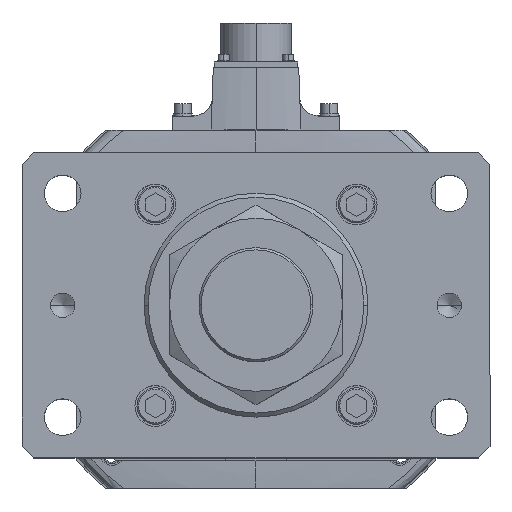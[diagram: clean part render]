
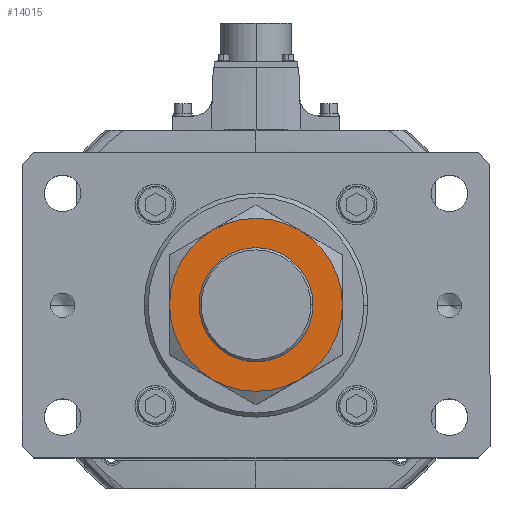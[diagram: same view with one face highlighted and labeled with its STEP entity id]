
A CAD part, top view. The second image highlights one B-rep face of the part: STEP entity #14015.
In plain terms, the highlighted planar face has unit normal (0, 0, 1).
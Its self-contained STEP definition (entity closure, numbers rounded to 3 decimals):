
#286 = CARTESIAN_POINT ( 'NONE',  ( 0., 0., 34. ) ) ;
#1874 = DIRECTION ( 'NONE',  ( 0., 0., -1. ) ) ;
#3239 = DIRECTION ( 'NONE',  ( 0., 0., -1. ) ) ;
#4269 = EDGE_CURVE ( 'NONE', #36777, #18673, #53697, .T. ) ;
#4595 = CARTESIAN_POINT ( 'NONE',  ( 0., 0., 34. ) ) ;
#4734 = AXIS2_PLACEMENT_3D ( 'NONE', #43669, #18228, #47964 ) ;
#5102 = CARTESIAN_POINT ( 'NONE',  ( -21.25, 36.806, 34. ) ) ;
#5955 = EDGE_CURVE ( 'NONE', #35316, #36777, #53524, .T. ) ;
#6283 = ORIENTED_EDGE ( 'NONE', *, *, #39008, .F. ) ;
#6478 = DIRECTION ( 'NONE',  ( 0., 0., -1. ) ) ;
#6659 = AXIS2_PLACEMENT_3D ( 'NONE', #40404, #44841, #14950 ) ;
#10468 = DIRECTION ( 'NONE',  ( 0., 0., 1. ) ) ;
#10799 = ORIENTED_EDGE ( 'NONE', *, *, #29269, .F. ) ;
#11322 = FACE_BOUND ( 'NONE', #28404, .T. ) ;
#11945 = CIRCLE ( 'NONE', #46133, 42.5 ) ;
#12364 = AXIS2_PLACEMENT_3D ( 'NONE', #21225, #33654, #12823 ) ;
#12823 = DIRECTION ( 'NONE',  ( 1., 0., 0. ) ) ;
#14015 = ADVANCED_FACE ( 'NONE', ( #15343, #11322 ), #23356, .T. ) ;
#14950 = DIRECTION ( 'NONE',  ( 1., 0., 0. ) ) ;
#15343 = FACE_OUTER_BOUND ( 'NONE', #28441, .T. ) ;
#16527 = VERTEX_POINT ( 'NONE', #43748 ) ;
#17111 = ORIENTED_EDGE ( 'NONE', *, *, #22601, .F. ) ;
#17569 = AXIS2_PLACEMENT_3D ( 'NONE', #286, #47498, #34702 ) ;
#17618 = ORIENTED_EDGE ( 'NONE', *, *, #30179, .F. ) ;
#17797 = CIRCLE ( 'NONE', #31853, 42.5 ) ;
#18228 = DIRECTION ( 'NONE',  ( 0., 0., -1. ) ) ;
#18453 = ORIENTED_EDGE ( 'NONE', *, *, #22213, .F. ) ;
#18673 = VERTEX_POINT ( 'NONE', #19783 ) ;
#19147 = VERTEX_POINT ( 'NONE', #32884 ) ;
#19783 = CARTESIAN_POINT ( 'NONE',  ( 42.5, 0., 34. ) ) ;
#20454 = CARTESIAN_POINT ( 'NONE',  ( 21.25, 36.806, 34. ) ) ;
#21225 = CARTESIAN_POINT ( 'NONE',  ( 0., 0., 34. ) ) ;
#21782 = DIRECTION ( 'NONE',  ( 0., 0., -1. ) ) ;
#22171 = CIRCLE ( 'NONE', #43615, 42.5 ) ;
#22213 = EDGE_CURVE ( 'NONE', #50959, #35316, #11945, .T. ) ;
#22601 = EDGE_CURVE ( 'NONE', #30870, #19147, #43844, .T. ) ;
#23356 = PLANE ( 'NONE',  #6659 ) ;
#23691 = CARTESIAN_POINT ( 'NONE',  ( 0., 0., 34. ) ) ;
#25032 = DIRECTION ( 'NONE',  ( -1., 0., 0. ) ) ;
#25495 = CARTESIAN_POINT ( 'NONE',  ( 21.25, -36.806, 34. ) ) ;
#26763 = VERTEX_POINT ( 'NONE', #25495 ) ;
#28132 = CARTESIAN_POINT ( 'NONE',  ( -42.5, 0., 34. ) ) ;
#28404 = EDGE_LOOP ( 'NONE', ( #42587, #17111 ) ) ;
#28407 = DIRECTION ( 'NONE',  ( 1., 0., 0. ) ) ;
#28441 = EDGE_LOOP ( 'NONE', ( #10799, #42631, #33770, #18453, #6283, #17618 ) ) ;
#29112 = CARTESIAN_POINT ( 'NONE',  ( 0., 0., 34. ) ) ;
#29269 = EDGE_CURVE ( 'NONE', #18673, #26763, #17797, .T. ) ;
#30179 = EDGE_CURVE ( 'NONE', #26763, #16527, #47727, .T. ) ;
#30280 = DIRECTION ( 'NONE',  ( 1., 0., 0. ) ) ;
#30870 = VERTEX_POINT ( 'NONE', #31755 ) ;
#31755 = CARTESIAN_POINT ( 'NONE',  ( 28., 0., 34. ) ) ;
#31853 = AXIS2_PLACEMENT_3D ( 'NONE', #54014, #6478, #28407 ) ;
#32884 = CARTESIAN_POINT ( 'NONE',  ( -28., 0., 34. ) ) ;
#33654 = DIRECTION ( 'NONE',  ( 0., 0., -1. ) ) ;
#33770 = ORIENTED_EDGE ( 'NONE', *, *, #5955, .F. ) ;
#34702 = DIRECTION ( 'NONE',  ( 1., 0., 0. ) ) ;
#35316 = VERTEX_POINT ( 'NONE', #5102 ) ;
#35548 = CARTESIAN_POINT ( 'NONE',  ( 0., 0., 34. ) ) ;
#35741 = DIRECTION ( 'NONE',  ( 1., 0., 0. ) ) ;
#36777 = VERTEX_POINT ( 'NONE', #20454 ) ;
#38254 = EDGE_CURVE ( 'NONE', #19147, #30870, #49419, .T. ) ;
#39008 = EDGE_CURVE ( 'NONE', #16527, #50959, #22171, .T. ) ;
#40404 = CARTESIAN_POINT ( 'NONE',  ( 0., 0., 34. ) ) ;
#42587 = ORIENTED_EDGE ( 'NONE', *, *, #38254, .F. ) ;
#42623 = AXIS2_PLACEMENT_3D ( 'NONE', #23691, #10468, #44829 ) ;
#42631 = ORIENTED_EDGE ( 'NONE', *, *, #4269, .F. ) ;
#43615 = AXIS2_PLACEMENT_3D ( 'NONE', #35548, #1874, #35741 ) ;
#43669 = CARTESIAN_POINT ( 'NONE',  ( 0., 0., 34. ) ) ;
#43748 = CARTESIAN_POINT ( 'NONE',  ( -21.25, -36.806, 34. ) ) ;
#43844 = CIRCLE ( 'NONE', #42623, 28. ) ;
#44825 = AXIS2_PLACEMENT_3D ( 'NONE', #4595, #21782, #30280 ) ;
#44829 = DIRECTION ( 'NONE',  ( 1., 0., 0. ) ) ;
#44841 = DIRECTION ( 'NONE',  ( 0., 0., 1. ) ) ;
#46133 = AXIS2_PLACEMENT_3D ( 'NONE', #29112, #3239, #25032 ) ;
#47498 = DIRECTION ( 'NONE',  ( 0., 0., 1. ) ) ;
#47727 = CIRCLE ( 'NONE', #4734, 42.5 ) ;
#47964 = DIRECTION ( 'NONE',  ( 1., 0., 0. ) ) ;
#49419 = CIRCLE ( 'NONE', #17569, 28. ) ;
#50959 = VERTEX_POINT ( 'NONE', #28132 ) ;
#53524 = CIRCLE ( 'NONE', #44825, 42.5 ) ;
#53697 = CIRCLE ( 'NONE', #12364, 42.5 ) ;
#54014 = CARTESIAN_POINT ( 'NONE',  ( 0., 0., 34. ) ) ;
